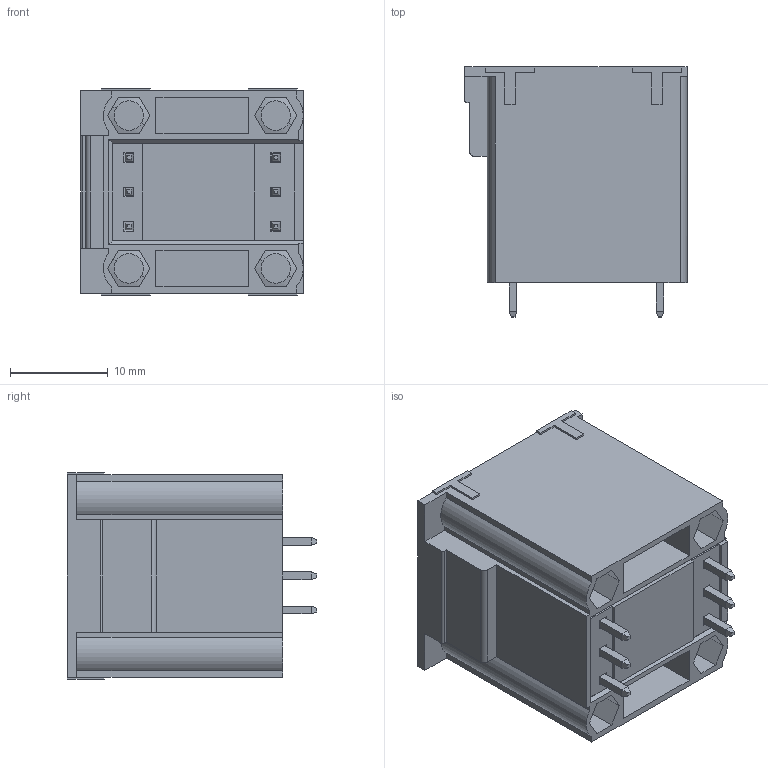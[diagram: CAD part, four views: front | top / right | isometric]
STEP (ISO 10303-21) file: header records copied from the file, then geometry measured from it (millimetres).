
FILE_DESCRIPTION((''),'2;1');
FILE_NAME('VL06','2022-06-15T',('renkang.li'),(''),'CREO PARAMETRIC BY PTC INC, 2016260','CREO PARAMETRIC BY PTC INC, 2016260','');
FILE_SCHEMA(('CONFIG_CONTROL_DESIGN'));
Products named in the file (1): VL06
Bounding box: 22.7 x 25.5 x 21.1 mm (x, y, z)
Volume: 4008.2 mm3; surface area: 8957.2 mm2
Topology: 1 solids, 17 shells, 989 faces, 2662 edges, 1724 vertices
Faces by surface type: plane 776, cylinder 127, cone 50, bspline 24, torus 12
Entity records: 47270 total; most frequent: CARTESIAN_POINT 22941, ORIENTED_EDGE 5308, DIRECTION 4506, EDGE_CURVE 2654, VECTOR 2180, LINE 2180, VERTEX_POINT 1724, AXIS2_PLACEMENT_3D 1163
